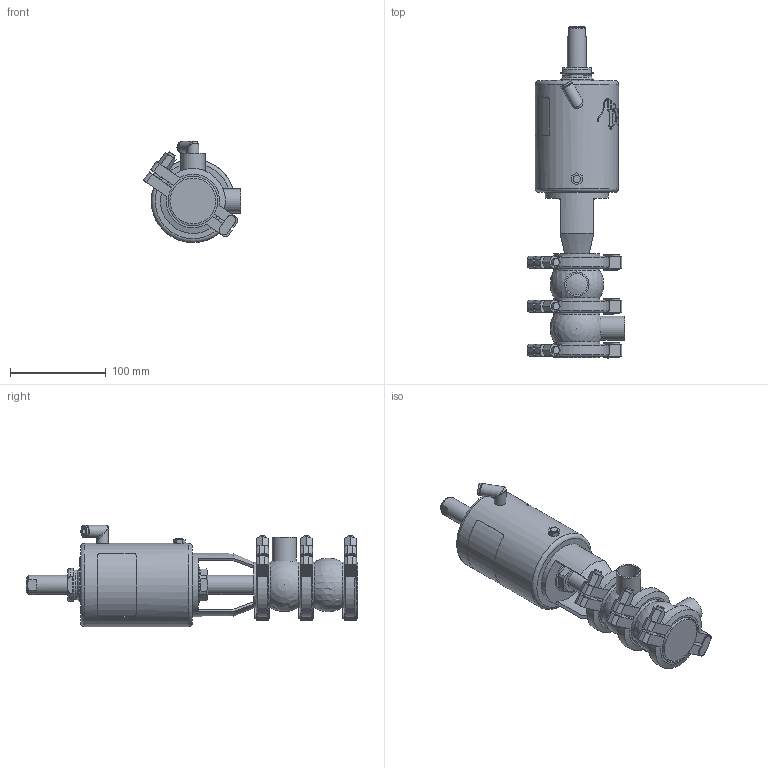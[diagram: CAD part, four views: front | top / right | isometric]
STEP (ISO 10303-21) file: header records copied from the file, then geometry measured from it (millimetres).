
FILE_DESCRIPTION (( 'STEP AP214' ), '1' );
FILE_NAME ('INNOVA M D W OD 1 T1 AS NC_10.241.16.0010.STEP', '2024-08-07T07:57:04', ( '' ), ( '' ), 'SwSTEP 2.0', 'SolidWorks 2023', '' );
FILE_SCHEMA (( 'AUTOMOTIVE_DESIGN' ));
Length unit declared in the file: millimetre
Products named in the file (6): 10.240.15.0014_T1 AS P180; 10.241.15.0001_DIN 025; 10.240.15.0010_DN 025; INNOVA M D W OD 1 T1 AS NC_10.241.16.0010; 10.240.15.0001_DN 025; 10.240.15.0006_OD 1"
Assembly tree (8 placements, depth 2):
  INNOVA M D W OD 1 T1 AS NC_10.241.16.0010
    10.240.15.0006_OD 1"  x2
    10.240.15.0010_DN 025
    10.240.15.0014_T1 AS P180
    10.240.15.0001_DN 025  x3
    10.241.15.0001_DIN 025
Bounding box: 101.94 x 347.09 x 105.75 mm (x, y, z)
Volume: 1103892.6 mm3; surface area: 160488.3 mm2
Topology: 9 solids, 9 shells, 464 faces, 1221 edges, 794 vertices
Faces by surface type: plane 225, cylinder 111, bspline 80, cone 40, sphere 4, torus 4
Full cylindrical faces by diameter (mm): 6.15 x1, 8 x7, 8.5 x1, 10.5 x1, 12.5 x3, 16 x1, 20 x2, 22.1 x2, 25.4 x2, 31 x1, 34.5 x2, 36.5 x1, 48 x6, 59.7 x6, 66 x1, 87 x1
Entity records: 19440 total; most frequent: CARTESIAN_POINT 10200, ORIENTED_EDGE 1620, DIRECTION 1235, EDGE_CURVE 810, VERTEX_POINT 555, AXIS2_PLACEMENT_3D 469, EDGE_LOOP 403, FACE_OUTER_BOUND 366
